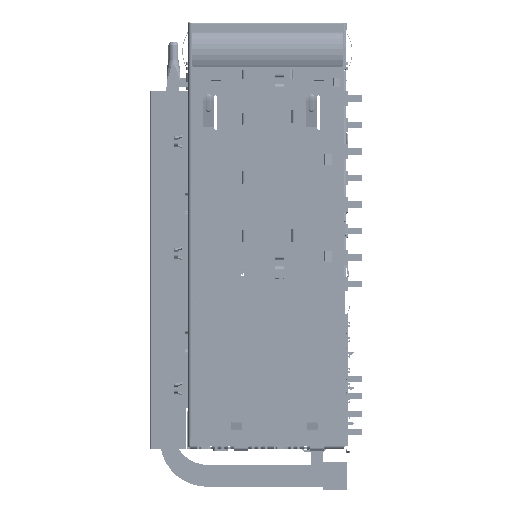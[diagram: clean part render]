
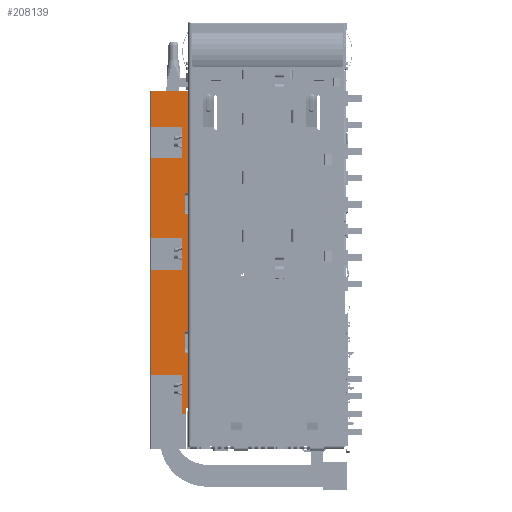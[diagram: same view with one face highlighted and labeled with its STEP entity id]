
A CAD part, left-side view. The second image highlights one B-rep face of the part: STEP entity #208139.
In plain terms, the highlighted planar face has unit normal (-1, 0, 0).
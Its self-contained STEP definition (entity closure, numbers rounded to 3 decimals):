
#36160=DIRECTION('',(0.,-1.,0.));
#36161=VECTOR('',#36160,0.4);
#36162=CARTESIAN_POINT('',(-18.9,27.05,-29.278));
#36163=LINE('',#36162,#36161);
#36345=DIRECTION('',(0.,-1.,0.));
#36346=VECTOR('',#36345,0.5);
#36347=CARTESIAN_POINT('',(-18.9,27.15,7.273));
#36348=LINE('',#36347,#36346);
#36369=DIRECTION('',(0.,1.,0.));
#36370=VECTOR('',#36369,0.5);
#36371=CARTESIAN_POINT('',(-18.9,26.65,3.573));
#36372=LINE('',#36371,#36370);
#36391=DIRECTION('',(0.,-1.,0.));
#36392=VECTOR('',#36391,0.5);
#36393=CARTESIAN_POINT('',(-18.9,27.15,-16.228));
#36394=LINE('',#36393,#36392);
#36423=DIRECTION('',(0.,1.,0.));
#36424=VECTOR('',#36423,0.5);
#36425=CARTESIAN_POINT('',(-18.9,26.65,-19.928));
#36426=LINE('',#36425,#36424);
#36431=DIRECTION('',(0.,0.,1.));
#36432=VECTOR('',#36431,5.3);
#36433=CARTESIAN_POINT('',(-18.9,27.65,-5.828));
#36434=LINE('',#36433,#36432);
#36435=DIRECTION('',(0.,0.,1.));
#36436=VECTOR('',#36435,5.3);
#36437=CARTESIAN_POINT('',(-18.9,27.65,13.173));
#36438=LINE('',#36437,#36436);
#36439=DIRECTION('',(0.,-1.,0.));
#36440=VECTOR('',#36439,6.25);
#36441=CARTESIAN_POINT('',(-18.9,32.9,24.573));
#36442=LINE('',#36441,#36440);
#36443=DIRECTION('',(0.,0.,-1.));
#36444=VECTOR('',#36443,17.3);
#36445=CARTESIAN_POINT('',(-18.9,26.65,24.573));
#36446=LINE('',#36445,#36444);
#36447=DIRECTION('',(0.,0.,-1.));
#36448=VECTOR('',#36447,19.8);
#36449=CARTESIAN_POINT('',(-18.9,26.65,3.573));
#36450=LINE('',#36449,#36448);
#36451=DIRECTION('',(0.,0.,-1.));
#36452=VECTOR('',#36451,9.35);
#36453=CARTESIAN_POINT('',(-18.9,26.65,-19.928));
#36454=LINE('',#36453,#36452);
#36455=DIRECTION('',(0.,0.,-1.));
#36456=VECTOR('',#36455,1.);
#36457=CARTESIAN_POINT('',(-18.9,27.05,-29.278));
#36458=LINE('',#36457,#36456);
#36459=DIRECTION('',(0.,1.,0.));
#36460=VECTOR('',#36459,0.6);
#36461=CARTESIAN_POINT('',(-18.9,27.05,-30.278));
#36462=LINE('',#36461,#36460);
#36463=DIRECTION('',(0.,0.,1.));
#36464=VECTOR('',#36463,6.5);
#36465=CARTESIAN_POINT('',(-18.9,27.65,-30.278));
#36466=LINE('',#36465,#36464);
#36467=DIRECTION('',(0.,1.,0.));
#36468=VECTOR('',#36467,5.25);
#36469=CARTESIAN_POINT('',(-18.9,27.65,-5.828));
#36470=LINE('',#36469,#36468);
#36489=DIRECTION('',(0.,0.,-1.));
#36490=VECTOR('',#36489,17.95);
#36491=CARTESIAN_POINT('',(-18.9,32.9,-5.828));
#36492=LINE('',#36491,#36490);
#36497=DIRECTION('',(0.,-1.,0.));
#36498=VECTOR('',#36497,5.25);
#36499=CARTESIAN_POINT('',(-18.9,32.9,-23.778));
#36500=LINE('',#36499,#36498);
#44598=DIRECTION('',(0.,-1.,0.));
#44599=VECTOR('',#44598,5.25);
#44600=CARTESIAN_POINT('',(-18.9,32.9,18.473));
#44601=LINE('',#44600,#44599);
#44636=DIRECTION('',(0.,0.,-1.));
#44637=VECTOR('',#44636,6.1);
#44638=CARTESIAN_POINT('',(-18.9,32.9,24.573));
#44639=LINE('',#44638,#44637);
#44640=DIRECTION('',(0.,1.,0.));
#44641=VECTOR('',#44640,5.25);
#44642=CARTESIAN_POINT('',(-18.9,27.65,13.173));
#44643=LINE('',#44642,#44641);
#44670=DIRECTION('',(0.,0.,-1.));
#44671=VECTOR('',#44670,13.7);
#44672=CARTESIAN_POINT('',(-18.9,32.9,13.173));
#44673=LINE('',#44672,#44671);
#44674=DIRECTION('',(0.,-1.,0.));
#44675=VECTOR('',#44674,5.25);
#44676=CARTESIAN_POINT('',(-18.9,32.9,-0.527));
#44677=LINE('',#44676,#44675);
#45419=DIRECTION('',(0.,0.,1.));
#45420=VECTOR('',#45419,3.7);
#45421=CARTESIAN_POINT('',(-18.9,27.15,3.573));
#45422=LINE('',#45421,#45420);
#45479=DIRECTION('',(0.,0.,1.));
#45480=VECTOR('',#45479,3.7);
#45481=CARTESIAN_POINT('',(-18.9,27.15,-19.928));
#45482=LINE('',#45481,#45480);
#160677=CARTESIAN_POINT('',(-18.9,26.65,-29.278));
#160678=VERTEX_POINT('',#160677);
#160679=CARTESIAN_POINT('',(-18.9,26.65,-19.928));
#160680=VERTEX_POINT('',#160679);
#160683=CARTESIAN_POINT('',(-18.9,27.05,-29.278));
#160684=VERTEX_POINT('',#160683);
#160699=CARTESIAN_POINT('',(-18.9,26.65,24.573));
#160700=VERTEX_POINT('',#160699);
#160701=CARTESIAN_POINT('',(-18.9,32.9,24.573));
#160702=VERTEX_POINT('',#160701);
#160795=CARTESIAN_POINT('',(-18.9,26.65,7.273));
#160796=VERTEX_POINT('',#160795);
#160801=CARTESIAN_POINT('',(-18.9,27.15,7.273));
#160802=VERTEX_POINT('',#160801);
#160813=CARTESIAN_POINT('',(-18.9,26.65,3.573));
#160814=VERTEX_POINT('',#160813);
#160815=CARTESIAN_POINT('',(-18.9,27.15,3.573));
#160816=VERTEX_POINT('',#160815);
#160819=CARTESIAN_POINT('',(-18.9,26.65,-16.228));
#160820=VERTEX_POINT('',#160819);
#160825=CARTESIAN_POINT('',(-18.9,27.15,-16.228));
#160826=VERTEX_POINT('',#160825);
#160841=CARTESIAN_POINT('',(-18.9,27.15,-19.928));
#160842=VERTEX_POINT('',#160841);
#160843=CARTESIAN_POINT('',(-18.9,27.65,-5.828));
#160844=CARTESIAN_POINT('',(-18.9,32.9,-5.828));
#160845=VERTEX_POINT('',#160843);
#160846=VERTEX_POINT('',#160844);
#160847=CARTESIAN_POINT('',(-18.9,27.65,-0.527));
#160848=VERTEX_POINT('',#160847);
#160849=CARTESIAN_POINT('',(-18.9,32.9,-0.527));
#160850=VERTEX_POINT('',#160849);
#160851=CARTESIAN_POINT('',(-18.9,32.9,13.173));
#160852=VERTEX_POINT('',#160851);
#160853=CARTESIAN_POINT('',(-18.9,27.65,13.173));
#160854=VERTEX_POINT('',#160853);
#160855=CARTESIAN_POINT('',(-18.9,27.65,18.473));
#160856=VERTEX_POINT('',#160855);
#160857=CARTESIAN_POINT('',(-18.9,32.9,18.473));
#160858=VERTEX_POINT('',#160857);
#160859=CARTESIAN_POINT('',(-18.9,27.05,-30.278));
#160860=VERTEX_POINT('',#160859);
#160861=CARTESIAN_POINT('',(-18.9,27.65,-30.278));
#160862=VERTEX_POINT('',#160861);
#160863=CARTESIAN_POINT('',(-18.9,27.65,-23.778));
#160864=VERTEX_POINT('',#160863);
#160865=CARTESIAN_POINT('',(-18.9,32.9,-23.778));
#160866=VERTEX_POINT('',#160865);
#208093=CARTESIAN_POINT('',(-18.9,29.775,-2.853));
#208094=DIRECTION('',(1.,0.,0.));
#208095=DIRECTION('',(0.,0.,1.));
#208096=AXIS2_PLACEMENT_3D('',#208093,#208094,#208095);
#208097=PLANE('',#208096);
#208099=ORIENTED_EDGE('',*,*,#208098,.F.);
#208101=ORIENTED_EDGE('',*,*,#208100,.T.);
#208103=ORIENTED_EDGE('',*,*,#208102,.F.);
#208105=ORIENTED_EDGE('',*,*,#208104,.F.);
#208107=ORIENTED_EDGE('',*,*,#208106,.F.);
#208109=ORIENTED_EDGE('',*,*,#208108,.T.);
#208111=ORIENTED_EDGE('',*,*,#208110,.F.);
#208113=ORIENTED_EDGE('',*,*,#208112,.F.);
#208114=ORIENTED_EDGE('',*,*,#207837,.T.);
#208115=ORIENTED_EDGE('',*,*,#207948,.T.);
#208116=ORIENTED_EDGE('',*,*,#207965,.F.);
#208118=ORIENTED_EDGE('',*,*,#208117,.F.);
#208119=ORIENTED_EDGE('',*,*,#208001,.F.);
#208120=ORIENTED_EDGE('',*,*,#208018,.T.);
#208121=ORIENTED_EDGE('',*,*,#208035,.F.);
#208123=ORIENTED_EDGE('',*,*,#208122,.F.);
#208124=ORIENTED_EDGE('',*,*,#208085,.F.);
#208125=ORIENTED_EDGE('',*,*,#207774,.T.);
#208126=ORIENTED_EDGE('',*,*,#207791,.F.);
#208128=ORIENTED_EDGE('',*,*,#208127,.T.);
#208130=ORIENTED_EDGE('',*,*,#208129,.T.);
#208132=ORIENTED_EDGE('',*,*,#208131,.T.);
#208134=ORIENTED_EDGE('',*,*,#208133,.F.);
#208136=ORIENTED_EDGE('',*,*,#208135,.F.);
#208137=EDGE_LOOP('',(#208099,#208101,#208103,#208105,#208107,#208109,#208111,
#208113,#208114,#208115,#208116,#208118,#208119,#208120,#208121,#208123,#208124,
#208125,#208126,#208128,#208130,#208132,#208134,#208136));
#208138=FACE_OUTER_BOUND('',#208137,.F.);
#208139=ADVANCED_FACE('',(#208138),#208097,.F.);
#207774=EDGE_CURVE('',#160680,#160678,#36454,.T.);
#207791=EDGE_CURVE('',#160684,#160678,#36163,.T.);
#207837=EDGE_CURVE('',#160702,#160700,#36442,.T.);
#207948=EDGE_CURVE('',#160700,#160796,#36446,.T.);
#207965=EDGE_CURVE('',#160802,#160796,#36348,.T.);
#208001=EDGE_CURVE('',#160814,#160816,#36372,.T.);
#208018=EDGE_CURVE('',#160814,#160820,#36450,.T.);
#208035=EDGE_CURVE('',#160826,#160820,#36394,.T.);
#208085=EDGE_CURVE('',#160680,#160842,#36426,.T.);
#208098=EDGE_CURVE('',#160845,#160846,#36470,.T.);
#208100=EDGE_CURVE('',#160845,#160848,#36434,.T.);
#208102=EDGE_CURVE('',#160850,#160848,#44677,.T.);
#208104=EDGE_CURVE('',#160852,#160850,#44673,.T.);
#208106=EDGE_CURVE('',#160854,#160852,#44643,.T.);
#208108=EDGE_CURVE('',#160854,#160856,#36438,.T.);
#208110=EDGE_CURVE('',#160858,#160856,#44601,.T.);
#208112=EDGE_CURVE('',#160702,#160858,#44639,.T.);
#208117=EDGE_CURVE('',#160816,#160802,#45422,.T.);
#208122=EDGE_CURVE('',#160842,#160826,#45482,.T.);
#208127=EDGE_CURVE('',#160684,#160860,#36458,.T.);
#208129=EDGE_CURVE('',#160860,#160862,#36462,.T.);
#208131=EDGE_CURVE('',#160862,#160864,#36466,.T.);
#208133=EDGE_CURVE('',#160866,#160864,#36500,.T.);
#208135=EDGE_CURVE('',#160846,#160866,#36492,.T.);
